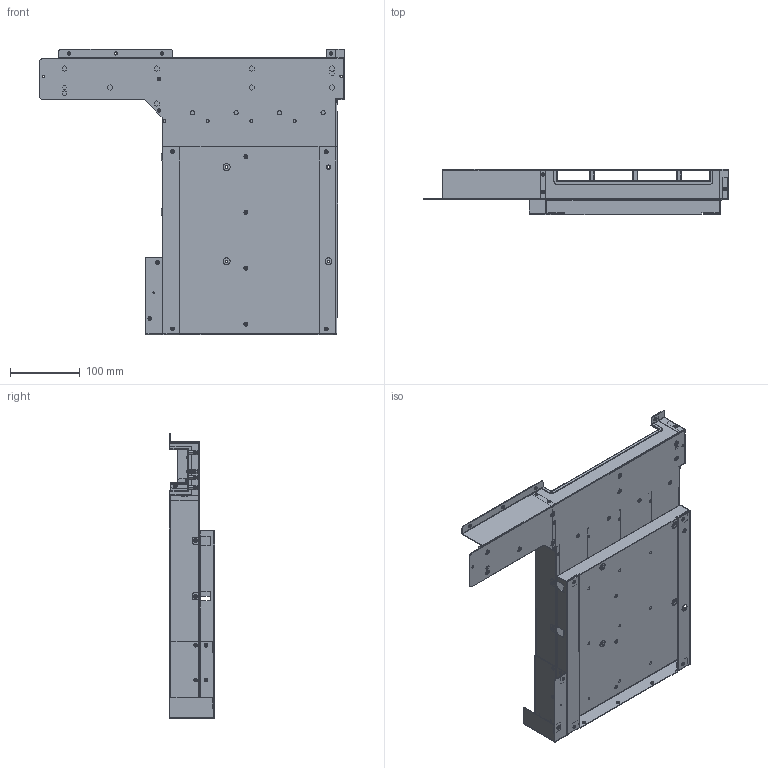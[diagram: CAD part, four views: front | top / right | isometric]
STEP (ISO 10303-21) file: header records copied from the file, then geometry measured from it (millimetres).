
FILE_DESCRIPTION((''),'2;1');
FILE_NAME('123400001974A_PSU-BRK_D700_ASM','2019-06-19T',('george_hsu'),(''),'PRO/ENGINEER BY PARAMETRIC TECHNOLOGY CORPORATION, 2012480','PRO/ENGINEER BY PARAMETRIC TECHNOLOGY CORPORATION, 2012480','');
FILE_SCHEMA(('AUTOMOTIVE_DESIGN { 1 0 10303 214 1 1 1 1 }'));
Length unit declared in the file: millimetre
Products named in the file (21): PSU-BRK-HOUSING-J2-D700; POWER-DIVIDER_J2; RIVET_05-RI-5D; POWER-DIVIDER_J2_ASM; RIVET; SO-M3X16P4; PIN-2P8X18P6; PDU-BAFFLER-J2-D700; RIVET_05-RI-T2; BAFFLER-SPONGE-01; BAFFLER-SPONGE-02; PDU-GUIDE-PIN; PDU-BRK-T; PDU-BAFFLER-01-J2-D760; PSU-BRK-HOUSING-J2-D700_ASM; PSU-BRK-BASE-02-J2-D700; RIVET_05-RI-T2P2; PSU-BRK-BASE-J2-D700_ASM; PSU-BRK-R-FIXING; PSU-BRK-R-FIXING_ASM; 123400001974A_PSU-BRK_D700_ASM
Assembly tree (97 placements, depth 4):
  123400001974A_PSU-BRK_D700_ASM
    PSU-BRK-HOUSING-J2-D700_ASM
      PSU-BRK-HOUSING-J2-D700
      POWER-DIVIDER_J2_ASM  x4
        POWER-DIVIDER_J2
        RIVET_05-RI-5D
      RIVET  x32
      SO-M3X16P4  x9
      PIN-2P8X18P6  x2
      PDU-BAFFLER-J2-D700
      RIVET_05-RI-T2  x12
      BAFFLER-SPONGE-01
      BAFFLER-SPONGE-02
      PDU-GUIDE-PIN  x4
      PDU-BRK-T
      PDU-BAFFLER-01-J2-D760
    PSU-BRK-BASE-J2-D700_ASM
      PSU-BRK-BASE-02-J2-D700
      RIVET_05-RI-T2P2  x4
    PSU-BRK-R-FIXING_ASM
      PSU-BRK-R-FIXING
      RIVET_05-RI-T2P2  x2
    RIVET_05-RI-T2  x10
    RIVET_05-RI-T2P2  x4
Bounding box: 436.9 x 64.55 x 408.5 mm (x, y, z)
Volume: 445172.2 mm3; surface area: 952982.3 mm2
Topology: 99 solids, 99 shells, 3012 faces, 7192 edges, 4406 vertices
Faces by surface type: cylinder 1220, plane 1155, cone 452, bspline 103, torus 82
Entity records: 46505 total; most frequent: CARTESIAN_POINT 10187, DIRECTION 7101, ORIENTED_EDGE 6252, EDGE_CURVE 3126, AXIS2_PLACEMENT_3D 2613, VERTEX_POINT 1876, VECTOR 1875, LINE 1875
